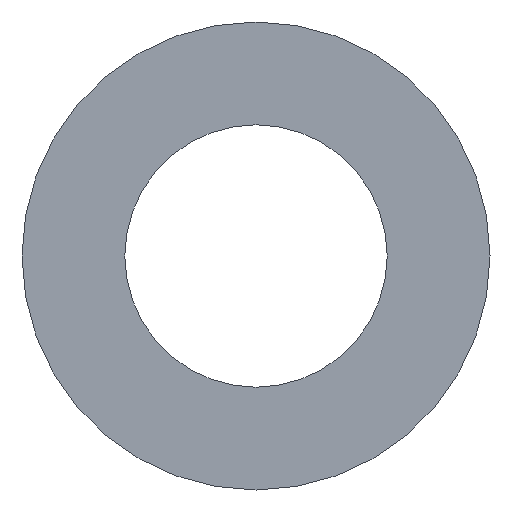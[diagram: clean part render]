
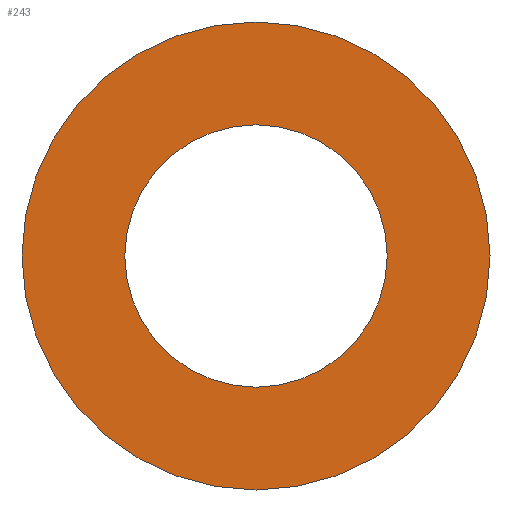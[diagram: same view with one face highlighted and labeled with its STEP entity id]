
A CAD part, front view. The second image highlights one B-rep face of the part: STEP entity #243.
In plain terms, the highlighted planar face has unit normal (0, -1, 0).
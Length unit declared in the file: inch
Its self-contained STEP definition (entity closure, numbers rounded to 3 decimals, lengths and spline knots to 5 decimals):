
#30 = DIRECTION ( 'NONE',  ( 0., 0., 1. ) ) ;
#32 = CARTESIAN_POINT ( 'NONE',  ( 0., 0., 0. ) ) ;
#38 = FACE_OUTER_BOUND ( 'NONE', #184, .T. ) ;
#40 = CIRCLE ( 'NONE', #52, 0.12485 ) ;
#41 = EDGE_CURVE ( 'NONE', #62, #86, #40, .T. ) ;
#48 = DIRECTION ( 'NONE',  ( 0., 1., 0. ) ) ;
#52 = AXIS2_PLACEMENT_3D ( 'NONE', #68, #48, #164 ) ;
#54 = CARTESIAN_POINT ( 'NONE',  ( 0., 0., 0.07 ) ) ;
#57 = DIRECTION ( 'NONE',  ( 0., 1., 0. ) ) ;
#61 = AXIS2_PLACEMENT_3D ( 'NONE', #32, #246, #30 ) ;
#62 = VERTEX_POINT ( 'NONE', #190 ) ;
#68 = CARTESIAN_POINT ( 'NONE',  ( 0., 0., 0. ) ) ;
#69 = CARTESIAN_POINT ( 'NONE',  ( 0., 0., 0. ) ) ;
#86 = VERTEX_POINT ( 'NONE', #183 ) ;
#89 = DIRECTION ( 'NONE',  ( 0., 0., 1. ) ) ;
#110 = EDGE_CURVE ( 'NONE', #86, #62, #241, .T. ) ;
#114 = DIRECTION ( 'NONE',  ( 0., 0., 1. ) ) ;
#123 = CIRCLE ( 'NONE', #216, 0.07 ) ;
#126 = ORIENTED_EDGE ( 'NONE', *, *, #127, .T. ) ;
#127 = EDGE_CURVE ( 'NONE', #201, #172, #136, .T. ) ;
#133 = AXIS2_PLACEMENT_3D ( 'NONE', #162, #205, #181 ) ;
#136 = CIRCLE ( 'NONE', #61, 0.07 ) ;
#139 = EDGE_CURVE ( 'NONE', #172, #201, #123, .T. ) ;
#150 = PLANE ( 'NONE',  #176 ) ;
#162 = CARTESIAN_POINT ( 'NONE',  ( 0., 0., 0. ) ) ;
#164 = DIRECTION ( 'NONE',  ( 0., 0., 1. ) ) ;
#166 = EDGE_LOOP ( 'NONE', ( #126, #236 ) ) ;
#167 = CARTESIAN_POINT ( 'NONE',  ( 0., 0., -0.07 ) ) ;
#172 = VERTEX_POINT ( 'NONE', #54 ) ;
#175 = ORIENTED_EDGE ( 'NONE', *, *, #41, .F. ) ;
#176 = AXIS2_PLACEMENT_3D ( 'NONE', #223, #57, #114 ) ;
#177 = FACE_BOUND ( 'NONE', #166, .T. ) ;
#181 = DIRECTION ( 'NONE',  ( 0., 0., 1. ) ) ;
#183 = CARTESIAN_POINT ( 'NONE',  ( 0., 0., -0.12485 ) ) ;
#184 = EDGE_LOOP ( 'NONE', ( #221, #175 ) ) ;
#190 = CARTESIAN_POINT ( 'NONE',  ( 0., 0., 0.12485 ) ) ;
#201 = VERTEX_POINT ( 'NONE', #167 ) ;
#203 = DIRECTION ( 'NONE',  ( 0., 1., 0. ) ) ;
#205 = DIRECTION ( 'NONE',  ( 0., 1., 0. ) ) ;
#216 = AXIS2_PLACEMENT_3D ( 'NONE', #69, #203, #89 ) ;
#221 = ORIENTED_EDGE ( 'NONE', *, *, #110, .F. ) ;
#223 = CARTESIAN_POINT ( 'NONE',  ( 0., 0., 0. ) ) ;
#236 = ORIENTED_EDGE ( 'NONE', *, *, #139, .T. ) ;
#241 = CIRCLE ( 'NONE', #133, 0.12485 ) ;
#243 = ADVANCED_FACE ( 'NONE', ( #38, #177 ), #150, .F. ) ;
#246 = DIRECTION ( 'NONE',  ( 0., 1., 0. ) ) ;
